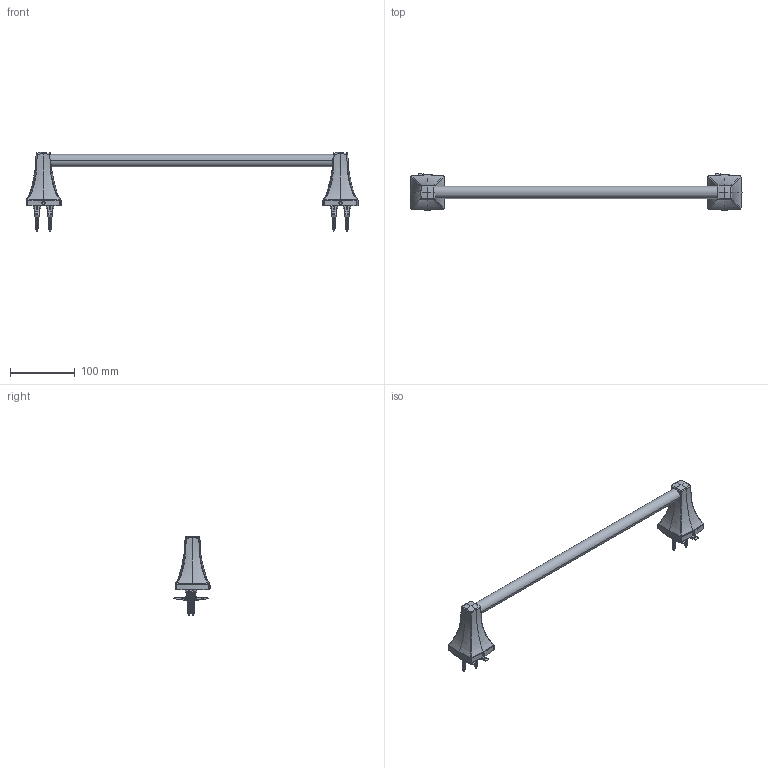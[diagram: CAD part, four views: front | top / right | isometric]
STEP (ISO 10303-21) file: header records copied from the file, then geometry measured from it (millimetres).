
FILE_DESCRIPTION (( 'STEP AP214' ), '1' );
FILE_NAME ('563TB.STEP', '2025-01-02T06:00:52', ( '' ), ( '' ), 'SwSTEP 2.0', 'SolidWorks 2023', '' );
FILE_SCHEMA (( 'AUTOMOTIVE_DESIGN' ));
Length unit declared in the file: inch
Products named in the file (1): 563TB
Bounding box: 511.21 x 55.7 x 122.05 mm (x, y, z)
Surface area: 73357.8 mm2 (no closed solid volume)
Topology: 0 solids, 23 shells, 699 faces, 2394 edges, 1600 vertices
Faces by surface type: plane 201, cylinder 196, bspline 159, torus 72, cone 37, sphere 34
Entity records: 66037 total; most frequent: CARTESIAN_POINT 48443, ORIENTED_EDGE 4013, DIRECTION 2694, EDGE_CURVE 2358, VERTEX_POINT 1596, B_SPLINE_CURVE_WITH_KNOTS 1204, AXIS2_PLACEMENT_3D 999, EDGE_LOOP 723
